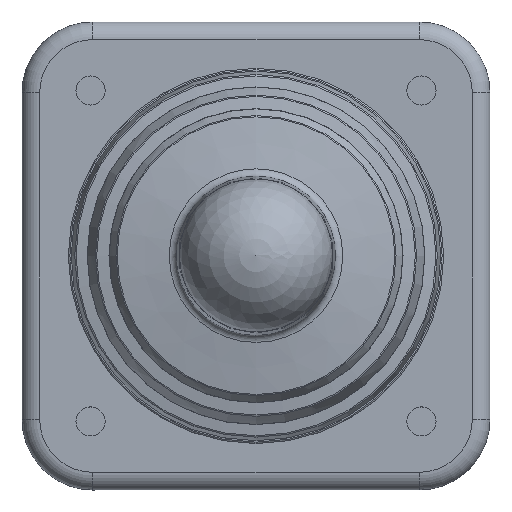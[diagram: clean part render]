
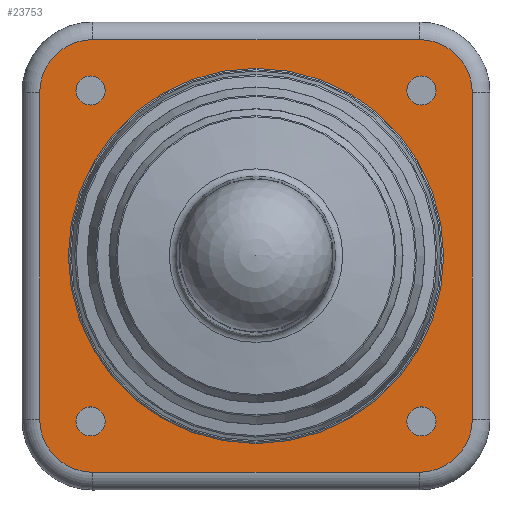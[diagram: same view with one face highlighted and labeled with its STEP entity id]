
A CAD part, top view. The second image highlights one B-rep face of the part: STEP entity #23753.
In plain terms, the highlighted planar face has unit normal (0, 0, 1).
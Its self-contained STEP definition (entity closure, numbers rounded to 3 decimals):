
#738=CIRCLE('',#25353,1.65);
#740=CIRCLE('',#25356,1.65);
#742=CIRCLE('',#25359,1.65);
#744=CIRCLE('',#25362,1.65);
#748=CIRCLE('',#25367,21.25);
#805=CIRCLE('',#25445,6.);
#808=CIRCLE('',#25450,6.);
#812=CIRCLE('',#25456,6.);
#816=CIRCLE('',#25462,6.);
#882=FACE_BOUND('',#3240,.T.);
#883=FACE_BOUND('',#3241,.T.);
#884=FACE_BOUND('',#3242,.T.);
#885=FACE_BOUND('',#3243,.T.);
#886=FACE_BOUND('',#3244,.T.);
#2030=FACE_OUTER_BOUND('',#3239,.T.);
#3239=EDGE_LOOP('',(#21481,#21482,#21483,#21484,#21485,#21486,#21487,#21488));
#3240=EDGE_LOOP('',(#21489));
#3241=EDGE_LOOP('',(#21490));
#3242=EDGE_LOOP('',(#21491));
#3243=EDGE_LOOP('',(#21492));
#3244=EDGE_LOOP('',(#21493));
#6105=LINE('',#38643,#8995);
#6107=LINE('',#38655,#8997);
#6109=LINE('',#38667,#8999);
#6111=LINE('',#38676,#9001);
#8995=VECTOR('',#31620,10.);
#8997=VECTOR('',#31634,10.);
#8999=VECTOR('',#31648,10.);
#9001=VECTOR('',#31660,10.);
#11240=VERTEX_POINT('',#38398);
#11242=VERTEX_POINT('',#38404);
#11244=VERTEX_POINT('',#38410);
#11246=VERTEX_POINT('',#38416);
#11250=VERTEX_POINT('',#38426);
#11290=VERTEX_POINT('',#38631);
#11293=VERTEX_POINT('',#38636);
#11295=VERTEX_POINT('',#38641);
#11297=VERTEX_POINT('',#38647);
#11299=VERTEX_POINT('',#38653);
#11301=VERTEX_POINT('',#38659);
#11303=VERTEX_POINT('',#38665);
#11305=VERTEX_POINT('',#38671);
#14614=EDGE_CURVE('',#11240,#11240,#738,.T.);
#14617=EDGE_CURVE('',#11242,#11242,#740,.T.);
#14620=EDGE_CURVE('',#11244,#11244,#742,.T.);
#14623=EDGE_CURVE('',#11246,#11246,#744,.T.);
#14629=EDGE_CURVE('',#11250,#11250,#748,.T.);
#14694=EDGE_CURVE('',#11293,#11290,#805,.T.);
#14696=EDGE_CURVE('',#11295,#11293,#6105,.T.);
#14699=EDGE_CURVE('',#11297,#11295,#808,.T.);
#14702=EDGE_CURVE('',#11299,#11297,#6107,.T.);
#14705=EDGE_CURVE('',#11301,#11299,#812,.T.);
#14708=EDGE_CURVE('',#11303,#11301,#6109,.T.);
#14711=EDGE_CURVE('',#11305,#11303,#816,.T.);
#14713=EDGE_CURVE('',#11290,#11305,#6111,.T.);
#21481=ORIENTED_EDGE('',*,*,#14694,.F.);
#21482=ORIENTED_EDGE('',*,*,#14696,.F.);
#21483=ORIENTED_EDGE('',*,*,#14699,.F.);
#21484=ORIENTED_EDGE('',*,*,#14702,.F.);
#21485=ORIENTED_EDGE('',*,*,#14705,.F.);
#21486=ORIENTED_EDGE('',*,*,#14708,.F.);
#21487=ORIENTED_EDGE('',*,*,#14711,.F.);
#21488=ORIENTED_EDGE('',*,*,#14713,.F.);
#21489=ORIENTED_EDGE('',*,*,#14614,.T.);
#21490=ORIENTED_EDGE('',*,*,#14617,.T.);
#21491=ORIENTED_EDGE('',*,*,#14620,.T.);
#21492=ORIENTED_EDGE('',*,*,#14623,.T.);
#21493=ORIENTED_EDGE('',*,*,#14629,.T.);
#22593=PLANE('',#25471);
#23753=ADVANCED_FACE('',(#2030,#882,#883,#884,#885,#886),#22593,.F.);
#25353=AXIS2_PLACEMENT_3D('',#38399,#31417,#31418);
#25356=AXIS2_PLACEMENT_3D('',#38405,#31424,#31425);
#25359=AXIS2_PLACEMENT_3D('',#38411,#31431,#31432);
#25362=AXIS2_PLACEMENT_3D('',#38417,#31438,#31439);
#25367=AXIS2_PLACEMENT_3D('',#38428,#31450,#31451);
#25445=AXIS2_PLACEMENT_3D('',#38638,#31614,#31615);
#25450=AXIS2_PLACEMENT_3D('',#38649,#31626,#31627);
#25456=AXIS2_PLACEMENT_3D('',#38661,#31640,#31641);
#25462=AXIS2_PLACEMENT_3D('',#38673,#31654,#31655);
#25471=AXIS2_PLACEMENT_3D('',#38696,#31681,#31682);
#31417=DIRECTION('center_axis',(0.,0.,
-1.));
#31418=DIRECTION('ref_axis',(0.,1.,0.));
#31424=DIRECTION('center_axis',(0.,0.,
-1.));
#31425=DIRECTION('ref_axis',(1.,0.,0.));
#31431=DIRECTION('center_axis',(0.,0.,
-1.));
#31432=DIRECTION('ref_axis',(0.,-1.,0.));
#31438=DIRECTION('center_axis',(0.,0.,
-1.));
#31439=DIRECTION('ref_axis',(-1.,0.,0.));
#31450=DIRECTION('center_axis',(0.,0.,
-1.));
#31451=DIRECTION('ref_axis',(0.,1.,0.));
#31614=DIRECTION('center_axis',(0.,0.,
-1.));
#31615=DIRECTION('ref_axis',(-0.707,0.707,0.));
#31620=DIRECTION('',(0.,1.,0.));
#31626=DIRECTION('center_axis',(0.,0.,
-1.));
#31627=DIRECTION('ref_axis',(-0.707,-0.707,0.));
#31634=DIRECTION('',(-1.,0.,0.));
#31640=DIRECTION('center_axis',(0.,0.,
-1.));
#31641=DIRECTION('ref_axis',(0.707,-0.707,0.));
#31648=DIRECTION('',(0.,-1.,0.));
#31654=DIRECTION('center_axis',(0.,0.,
-1.));
#31655=DIRECTION('ref_axis',(0.707,0.707,0.));
#31660=DIRECTION('',(1.,0.,0.));
#31681=DIRECTION('center_axis',(0.,0.,
-1.));
#31682=DIRECTION('ref_axis',(1.,0.,0.));
#38398=CARTESIAN_POINT('',(-18.762,17.112,-4.15));
#38399=CARTESIAN_POINT('Origin',(-18.762,18.762,-4.15));
#38404=CARTESIAN_POINT('',(17.065,18.762,-4.15));
#38405=CARTESIAN_POINT('Origin',(18.715,18.762,-4.15));
#38410=CARTESIAN_POINT('',(18.715,-17.065,-4.15));
#38411=CARTESIAN_POINT('Origin',(18.715,-18.715,-4.15));
#38416=CARTESIAN_POINT('',(-17.112,-18.715,-4.15));
#38417=CARTESIAN_POINT('Origin',(-18.762,-18.715,-4.15));
#38426=CARTESIAN_POINT('',(-0.023,-21.227,-4.15));
#38428=CARTESIAN_POINT('Origin',(-0.023,0.023,
-4.15));
#38631=CARTESIAN_POINT('',(-18.523,24.523,-4.15));
#38636=CARTESIAN_POINT('',(-24.523,18.523,-4.15));
#38638=CARTESIAN_POINT('Origin',(-18.523,18.523,-4.15));
#38641=CARTESIAN_POINT('',(-24.523,-18.477,-4.15));
#38643=CARTESIAN_POINT('',(-24.523,9.273,-4.15));
#38647=CARTESIAN_POINT('',(-18.523,-24.477,-4.15));
#38649=CARTESIAN_POINT('Origin',(-18.523,-18.477,-4.15));
#38653=CARTESIAN_POINT('',(18.477,-24.477,-4.15));
#38655=CARTESIAN_POINT('',(-9.273,-24.477,-4.15));
#38659=CARTESIAN_POINT('',(24.477,-18.477,-4.15));
#38661=CARTESIAN_POINT('Origin',(18.477,-18.477,-4.15));
#38665=CARTESIAN_POINT('',(24.477,18.523,-4.15));
#38667=CARTESIAN_POINT('',(24.477,-9.227,-4.15));
#38671=CARTESIAN_POINT('',(18.477,24.523,-4.15));
#38673=CARTESIAN_POINT('Origin',(18.477,18.523,-4.15));
#38676=CARTESIAN_POINT('',(9.227,24.523,-4.15));
#38696=CARTESIAN_POINT('Origin',(-0.023,0.023,
-4.15));
